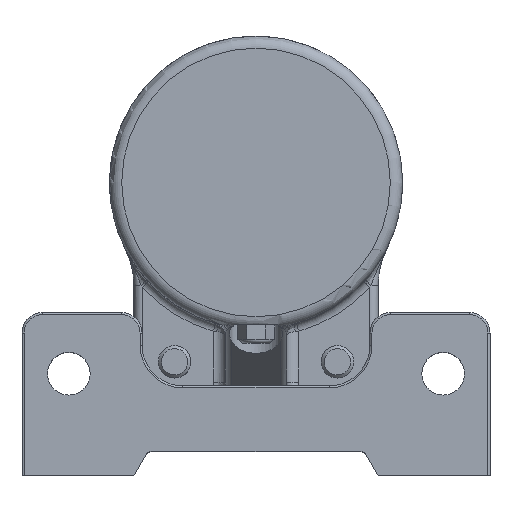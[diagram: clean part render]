
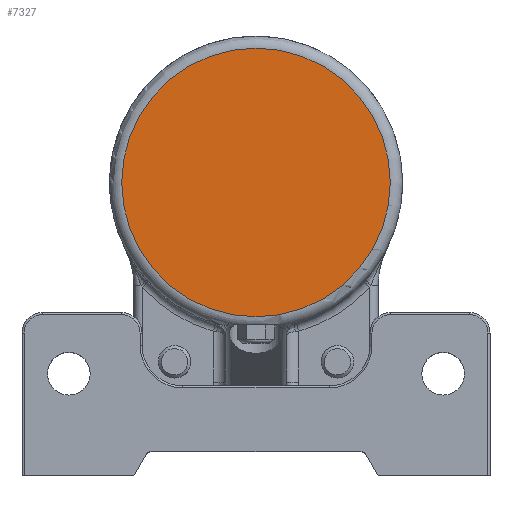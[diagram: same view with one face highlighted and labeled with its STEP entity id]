
A CAD part, top view. The second image highlights one B-rep face of the part: STEP entity #7327.
In plain terms, the highlighted planar face has unit normal (0, 0, 1).
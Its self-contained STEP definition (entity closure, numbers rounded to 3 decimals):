
#288=PLANE('',#7957);
#541=FACE_OUTER_BOUND('',#980,.T.);
#980=EDGE_LOOP('',(#5290,#5291));
#1516=CIRCLE('',#7884,33.);
#1517=CIRCLE('',#7885,33.);
#2967=VERTEX_POINT('',#11553);
#2968=VERTEX_POINT('',#11555);
#3763=EDGE_CURVE('',#2967,#2968,#1516,.T.);
#3764=EDGE_CURVE('',#2968,#2967,#1517,.T.);
#5290=ORIENTED_EDGE('',*,*,#3764,.F.);
#5291=ORIENTED_EDGE('',*,*,#3763,.F.);
#7327=ADVANCED_FACE('',(#541),#288,.T.);
#7884=AXIS2_PLACEMENT_3D('',#11556,#9206,#9207);
#7885=AXIS2_PLACEMENT_3D('',#11557,#9208,#9209);
#7957=AXIS2_PLACEMENT_3D('',#12356,#9378,#9379);
#9206=DIRECTION('center_axis',(0.,0.,
-1.));
#9207=DIRECTION('ref_axis',(0.,-1.,0.));
#9208=DIRECTION('center_axis',(0.,0.,
-1.));
#9209=DIRECTION('ref_axis',(0.,-1.,0.));
#9378=DIRECTION('center_axis',(0.,0.,
1.));
#9379=DIRECTION('ref_axis',(1.,0.,0.));
#11553=CARTESIAN_POINT('',(33.,72.,63.));
#11555=CARTESIAN_POINT('',(0.,105.,63.));
#11556=CARTESIAN_POINT('Origin',(0.,72.,
63.));
#11557=CARTESIAN_POINT('Origin',(0.,72.,
63.));
#12356=CARTESIAN_POINT('Origin',(0.,90.,63.));
